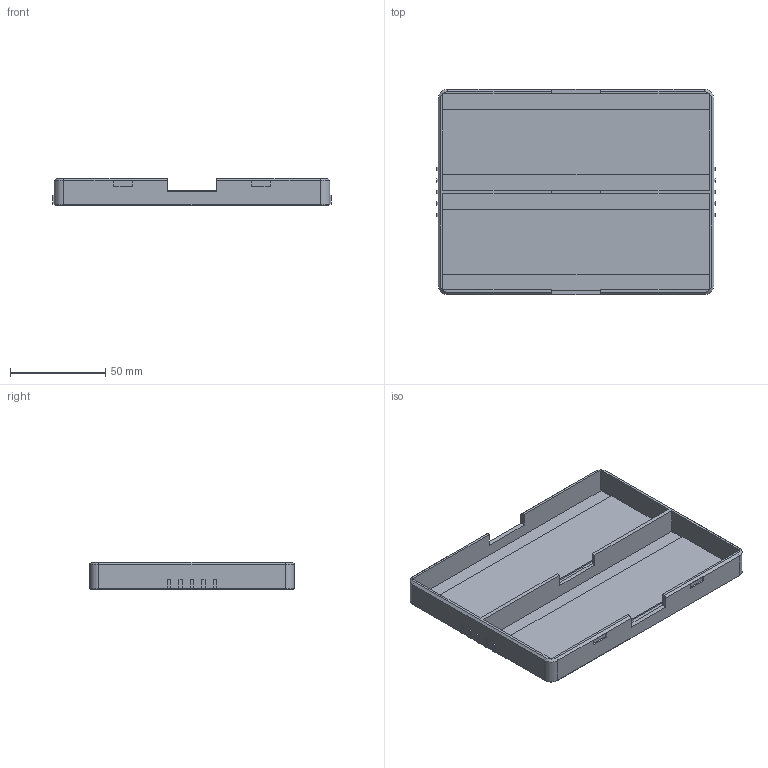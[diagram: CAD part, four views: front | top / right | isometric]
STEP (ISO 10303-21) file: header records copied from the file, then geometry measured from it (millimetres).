
FILE_DESCRIPTION(('Open CASCADE Model'),'2;1');
FILE_NAME('Open CASCADE Shape Model','2026-11-03T16:27:20',('Author'),( 'Open CASCADE'),'Open CASCADE STEP processor 8.0','build123d', 'Unknown');
FILE_SCHEMA(('AUTOMOTIVE_DESIGN { 1 0 10303 214 1 1 1 1 }'));
Products named in the file (1): COMPOUND
Bounding box: 146.4 x 107.8 x 14.5 mm (x, y, z)
Volume: 43733.7 mm3; surface area: 48274.3 mm2
Topology: 1 solids, 1 shells, 4333 faces, 12740 edges, 8488 vertices
Faces by surface type: plane 4317, cylinder 8, cone 8
Entity records: 306524 total; most frequent: CARTESIAN_POINT 51266, DIRECTION 46748, LINE 38012, VECTOR 38012, ORIENTED_EDGE 25480, PCURVE 25480, DEFINITIONAL_REPRESENTATION 25480, EDGE_CURVE 12740
